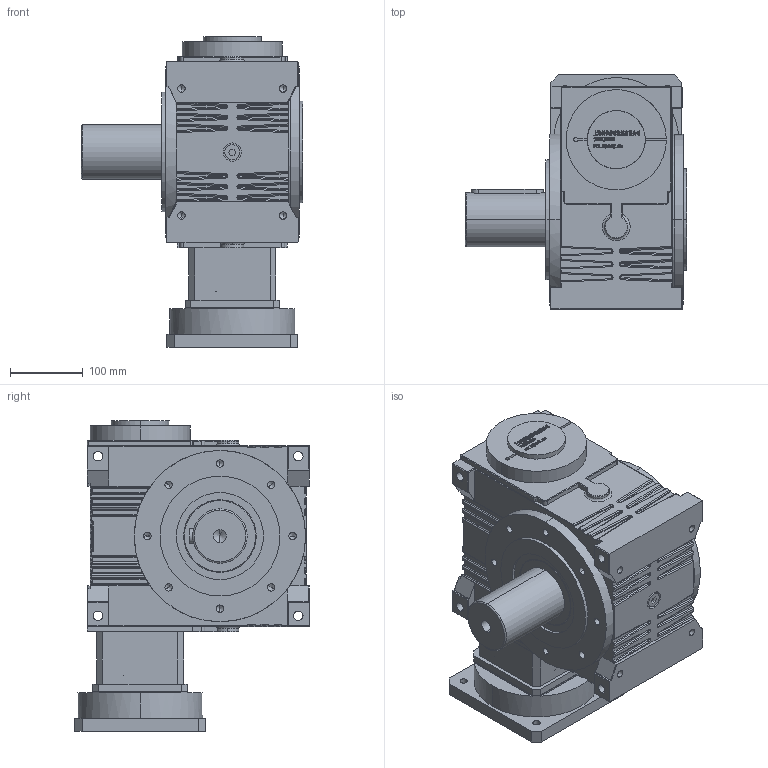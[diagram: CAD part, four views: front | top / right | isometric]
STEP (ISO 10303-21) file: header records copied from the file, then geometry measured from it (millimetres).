
FILE_DESCRIPTION (( 'STEP AP203' ), '1' );
FILE_NAME ('FXLB110-(5~90)-ASL-35-114.3-200-M12.step', '2022-11-05T14:36:01', ( '' ), ( '' ), 'SwSTEP 2.0', 'SolidWorks 2020', '' );
FILE_SCHEMA (( 'CONFIG_CONTROL_DESIGN' ));
Length unit declared in the file: millimetre
Products named in the file (9): JDLB110-ST130________.step; ______BD68-73.3-32-35____.step; JDLB110-ASR__________75-115.step; 錨璃180^FXLB110-(5~90)-ASL-35-114.3-200-M12; ST180-114.3-200-M12____________.step; FXLB110-(5~90)-ASL-35-114.3-200-M12.step; JDLB110-CR________60.step; JDLB110-CR____.step; FXLB110-(5~90)-ASL-35-114.3-200-M12
Assembly tree (8 placements, depth 3):
  FXLB110-(5~90)-ASL-35-114.3-200-M12
    FXLB110-(5~90)-ASL-35-114.3-200-M12.step
      JDLB110-CR____.step
      JDLB110-CR________60.step
      JDLB110-ST130________.step
      ST180-114.3-200-M12____________.step
      ______BD68-73.3-32-35____.step
      JDLB110-ASR__________75-115.step
    錨璃180^FXLB110-(5~90)-ASL-35-114.3-200-M12
Bounding box: 305 x 323 x 427.94 mm (x, y, z)
Volume: 15819960.1 mm3; surface area: 972453.9 mm2
Topology: 82 solids, 82 shells, 3171 faces, 8336 edges, 5299 vertices
Faces by surface type: plane 1674, cylinder 640, bspline 582, torus 102, cone 91, sphere 82
Entity records: 124301 total; most frequent: CARTESIAN_POINT 49768, ORIENTED_EDGE 16392, DIRECTION 13255, EDGE_CURVE 8196, VERTEX_POINT 5299, VECTOR 5285, LINE 5285, AXIS2_PLACEMENT_3D 3985
